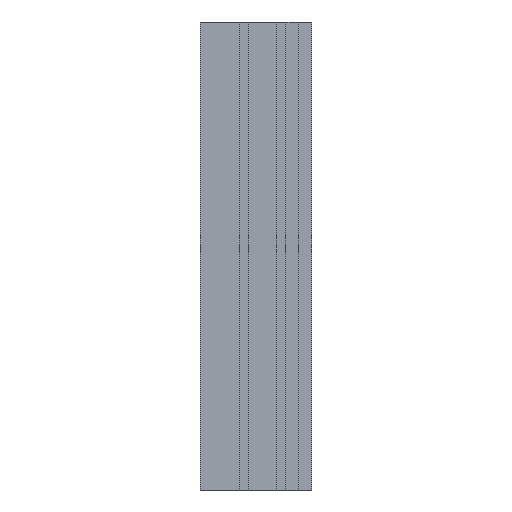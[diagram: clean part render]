
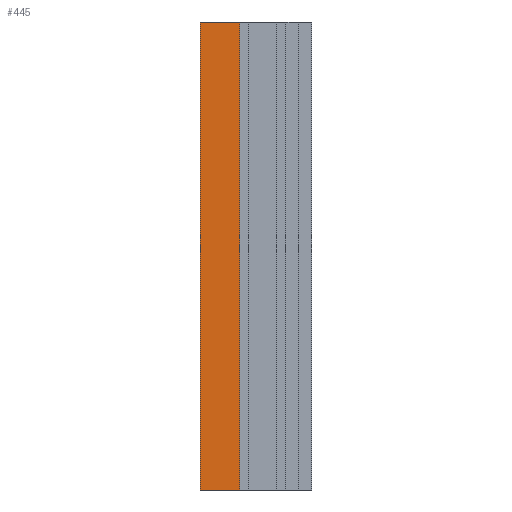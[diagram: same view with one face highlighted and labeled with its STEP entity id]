
A CAD part, left-side view. The second image highlights one B-rep face of the part: STEP entity #445.
In plain terms, the highlighted planar face has unit normal (-1, 0, 0).
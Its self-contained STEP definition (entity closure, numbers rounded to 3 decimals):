
#69 = EDGE_CURVE ( 'NONE', #152, #379, #859, .T. ) ;
#152 = VERTEX_POINT ( 'NONE', #2411 ) ;
#275 = DIRECTION ( 'NONE',  ( 0., 0., -1. ) ) ;
#379 = VERTEX_POINT ( 'NONE', #2122 ) ;
#408 = CARTESIAN_POINT ( 'NONE',  ( -29.4, 76.9, 0. ) ) ;
#445 = ADVANCED_FACE ( 'NONE', ( #725 ), #1892, .T. ) ;
#487 = DIRECTION ( 'NONE',  ( -1., 0., 0. ) ) ;
#644 = VECTOR ( 'NONE', #3191, 1000. ) ;
#725 = FACE_OUTER_BOUND ( 'NONE', #2649, .T. ) ;
#858 = CARTESIAN_POINT ( 'NONE',  ( -29.4, 0., 0. ) ) ;
#859 = LINE ( 'NONE', #3007, #1131 ) ;
#1048 = VERTEX_POINT ( 'NONE', #408 ) ;
#1131 = VECTOR ( 'NONE', #1600, 1000. ) ;
#1145 = LINE ( 'NONE', #858, #644 ) ;
#1363 = LINE ( 'NONE', #1968, #3297 ) ;
#1395 = VECTOR ( 'NONE', #275, 1000. ) ;
#1600 = DIRECTION ( 'NONE',  ( 0., 0., -1. ) ) ;
#1665 = LINE ( 'NONE', #1735, #1395 ) ;
#1735 = CARTESIAN_POINT ( 'NONE',  ( -29.4, 76.9, 500. ) ) ;
#1892 = PLANE ( 'NONE',  #2479 ) ;
#1935 = VERTEX_POINT ( 'NONE', #2281 ) ;
#1968 = CARTESIAN_POINT ( 'NONE',  ( -29.4, 0., 500. ) ) ;
#2122 = CARTESIAN_POINT ( 'NONE',  ( -29.4, 119.2, 0. ) ) ;
#2281 = CARTESIAN_POINT ( 'NONE',  ( -29.4, 76.9, 500. ) ) ;
#2386 = EDGE_CURVE ( 'NONE', #1935, #1048, #1665, .T. ) ;
#2411 = CARTESIAN_POINT ( 'NONE',  ( -29.4, 119.2, 500. ) ) ;
#2479 = AXIS2_PLACEMENT_3D ( 'NONE', #2505, #487, #3052 ) ;
#2505 = CARTESIAN_POINT ( 'NONE',  ( -29.4, 0., 500. ) ) ;
#2649 = EDGE_LOOP ( 'NONE', ( #3661, #2848, #3363, #3397 ) ) ;
#2848 = ORIENTED_EDGE ( 'NONE', *, *, #2386, .F. ) ;
#3007 = CARTESIAN_POINT ( 'NONE',  ( -29.4, 119.2, 500. ) ) ;
#3044 = DIRECTION ( 'NONE',  ( 0., 1., 0. ) ) ;
#3046 = EDGE_CURVE ( 'NONE', #1935, #152, #1363, .T. ) ;
#3052 = DIRECTION ( 'NONE',  ( 0., 0., 1. ) ) ;
#3191 = DIRECTION ( 'NONE',  ( 0., 1., 0. ) ) ;
#3297 = VECTOR ( 'NONE', #3044, 1000. ) ;
#3363 = ORIENTED_EDGE ( 'NONE', *, *, #3046, .T. ) ;
#3397 = ORIENTED_EDGE ( 'NONE', *, *, #69, .T. ) ;
#3597 = EDGE_CURVE ( 'NONE', #1048, #379, #1145, .T. ) ;
#3661 = ORIENTED_EDGE ( 'NONE', *, *, #3597, .F. ) ;
